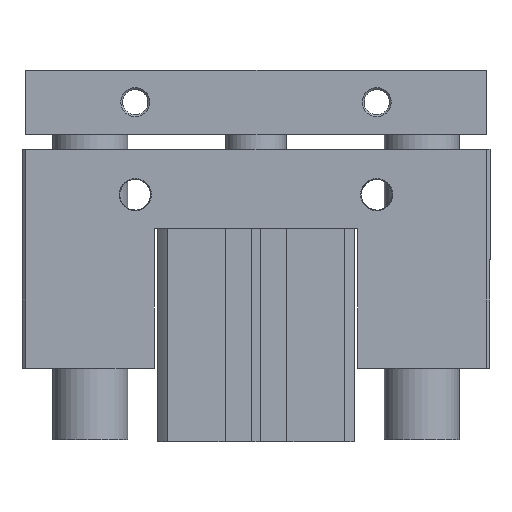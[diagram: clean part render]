
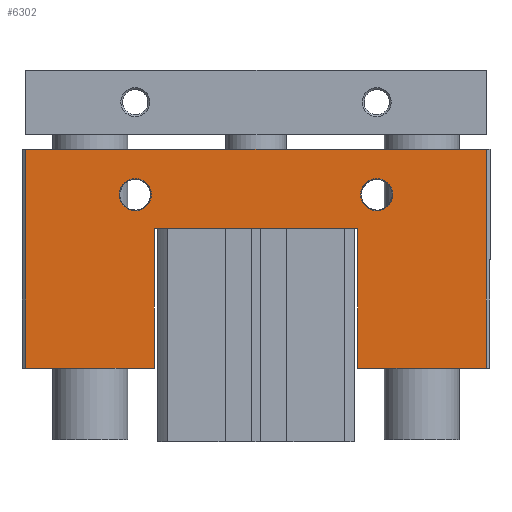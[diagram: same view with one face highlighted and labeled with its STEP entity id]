
A CAD part, front view. The second image highlights one B-rep face of the part: STEP entity #6302.
In plain terms, the highlighted planar face has unit normal (0, -1, 0).
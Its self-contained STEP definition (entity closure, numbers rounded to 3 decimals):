
#1027=CARTESIAN_POINT('',(-60.402,-25.945,77.5));
#1028=VERTEX_POINT('',#1027);
#1035=CARTESIAN_POINT('',(61.598,-25.945,77.5));
#1036=VERTEX_POINT('',#1035);
#1037=CARTESIAN_POINT('',(-60.402,-25.945,77.5));
#1038=DIRECTION('',(1.0,0.0,0.0));
#1039=VECTOR('',#1038,122.);
#1040=LINE('',#1037,#1039);
#1041=EDGE_CURVE('',#1028,#1036,#1040,.T.);
#2137=CARTESIAN_POINT('',(-60.402,-25.945,19.5));
#2138=VERTEX_POINT('',#2137);
#2145=CARTESIAN_POINT('',(-60.402,-25.945,19.5));
#2146=DIRECTION('',(0.0,0.0,1.0));
#2147=VECTOR('',#2146,58.);
#2148=LINE('',#2145,#2147);
#2149=EDGE_CURVE('',#2138,#1028,#2148,.T.);
#2159=CARTESIAN_POINT('',(61.598,-25.945,19.5));
#2160=VERTEX_POINT('',#2159);
#2169=CARTESIAN_POINT('',(61.598,-25.945,77.5));
#2170=DIRECTION('',(0.0,0.0,-1.0));
#2171=VECTOR('',#2170,58.);
#2172=LINE('',#2169,#2171);
#2173=EDGE_CURVE('',#1036,#2160,#2172,.T.);
#2334=CARTESIAN_POINT('',(28.348,-25.945,65.5));
#2335=VERTEX_POINT('',#2334);
#2336=CARTESIAN_POINT('',(32.598,-25.945,65.5));
#2337=DIRECTION('',(0.0,1.0,0.0));
#2338=DIRECTION('',(1.0,0.0,0.0));
#2339=AXIS2_PLACEMENT_3D('',#2336,#2337,#2338);
#2340=CIRCLE('',#2339,4.25);
#2341=EDGE_CURVE('',#2335,#2335,#2340,.T.);
#2413=CARTESIAN_POINT('',(-35.652,-25.945,65.5));
#2414=VERTEX_POINT('',#2413);
#2415=CARTESIAN_POINT('',(-31.402,-25.945,65.5));
#2416=DIRECTION('',(0.0,1.0,0.0));
#2417=DIRECTION('',(1.0,0.0,0.0));
#2418=AXIS2_PLACEMENT_3D('',#2415,#2416,#2417);
#2419=CIRCLE('',#2418,4.25);
#2420=EDGE_CURVE('',#2414,#2414,#2419,.T.);
#6248=CARTESIAN_POINT('',(0.598,-25.945,51.288));
#6249=DIRECTION('',(0.0,1.0,0.0));
#6250=DIRECTION('',(0.0,0.0,1.0));
#6251=AXIS2_PLACEMENT_3D('',#6248,#6249,#6250);
#6252=PLANE('',#6251);
#6253=ORIENTED_EDGE('',*,*,#2149,.F.);
#6254=CARTESIAN_POINT('',(-26.402,-25.945,19.5));
#6255=VERTEX_POINT('',#6254);
#6256=CARTESIAN_POINT('',(-26.402,-25.945,19.5));
#6257=DIRECTION('',(-1.0,0.0,0.0));
#6258=VECTOR('',#6257,34.);
#6259=LINE('',#6256,#6258);
#6260=EDGE_CURVE('',#6255,#2138,#6259,.T.);
#6261=ORIENTED_EDGE('',*,*,#6260,.F.);
#6262=CARTESIAN_POINT('',(-26.402,-25.945,56.5));
#6263=VERTEX_POINT('',#6262);
#6264=CARTESIAN_POINT('',(-26.402,-25.945,56.5));
#6265=DIRECTION('',(0.0,0.0,-1.0));
#6266=VECTOR('',#6265,37.);
#6267=LINE('',#6264,#6266);
#6268=EDGE_CURVE('',#6263,#6255,#6267,.T.);
#6269=ORIENTED_EDGE('',*,*,#6268,.F.);
#6270=CARTESIAN_POINT('',(27.598,-25.945,56.5));
#6271=VERTEX_POINT('',#6270);
#6272=CARTESIAN_POINT('',(27.598,-25.945,56.5));
#6273=DIRECTION('',(-1.0,0.0,0.0));
#6274=VECTOR('',#6273,54.0);
#6275=LINE('',#6272,#6274);
#6276=EDGE_CURVE('',#6271,#6263,#6275,.T.);
#6277=ORIENTED_EDGE('',*,*,#6276,.F.);
#6278=CARTESIAN_POINT('',(27.598,-25.945,19.5));
#6279=VERTEX_POINT('',#6278);
#6280=CARTESIAN_POINT('',(27.598,-25.945,19.5));
#6281=DIRECTION('',(0.0,0.0,1.0));
#6282=VECTOR('',#6281,37.);
#6283=LINE('',#6280,#6282);
#6284=EDGE_CURVE('',#6279,#6271,#6283,.T.);
#6285=ORIENTED_EDGE('',*,*,#6284,.F.);
#6286=CARTESIAN_POINT('',(61.598,-25.945,19.5));
#6287=DIRECTION('',(-1.0,0.0,0.0));
#6288=VECTOR('',#6287,34.0);
#6289=LINE('',#6286,#6288);
#6290=EDGE_CURVE('',#2160,#6279,#6289,.T.);
#6291=ORIENTED_EDGE('',*,*,#6290,.F.);
#6292=ORIENTED_EDGE('',*,*,#2173,.F.);
#6293=ORIENTED_EDGE('',*,*,#1041,.F.);
#6294=EDGE_LOOP('',(#6253,#6261,#6269,#6277,#6285,#6291,#6292,#6293));
#6295=FACE_OUTER_BOUND('',#6294,.T.);
#6296=ORIENTED_EDGE('',*,*,#2341,.T.);
#6297=EDGE_LOOP('',(#6296));
#6298=FACE_BOUND('',#6297,.T.);
#6299=ORIENTED_EDGE('',*,*,#2420,.T.);
#6300=EDGE_LOOP('',(#6299));
#6301=FACE_BOUND('',#6300,.T.);
#6302=ADVANCED_FACE('',(#6295,#6298,#6301),#6252,.F.);
